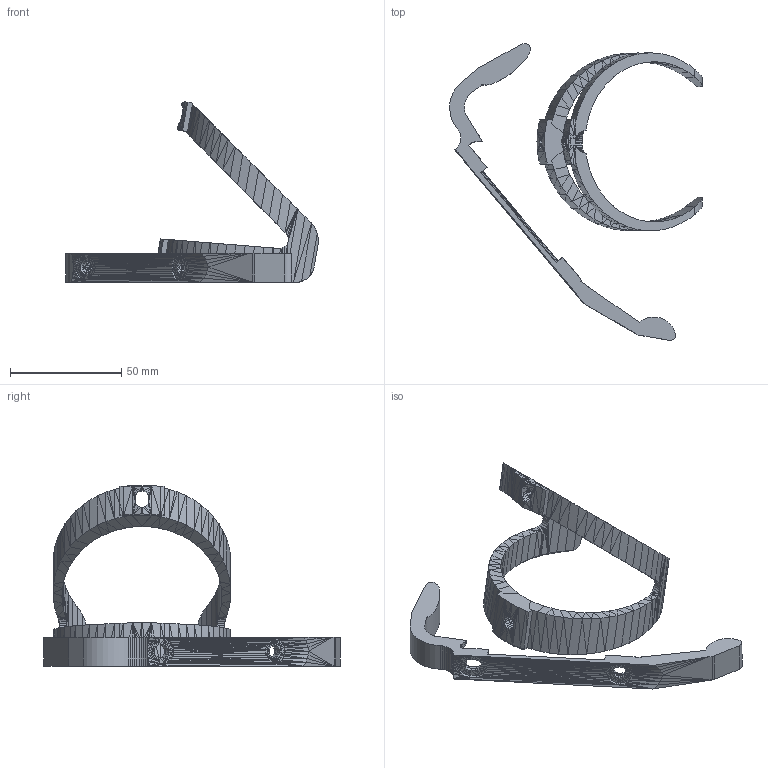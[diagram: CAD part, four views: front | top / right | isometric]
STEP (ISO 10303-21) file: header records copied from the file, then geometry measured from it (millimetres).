
FILE_DESCRIPTION(/* description */ ('STEP AP242 Edition 2','CAx-IF Rec.Pracs.---Representation and Presentation of Product Manufacturing Information (PMI)---4.0---2014-10-13','CAx-IF Rec.Pracs.---3D Tessellated Geometry---0.4---2014-09-14','2;1','CAx-IF Rec.Pracs.---User Defined Attributes---1.5---2016-08-15'),/* implementation_level */ '2;1');
FILE_NAME(/* name */ '698779cbe0e614ade837a9a0',/* time_stamp */ '2026-02-07T17:43:40Z',/* author */ (''),/* organization */ (''),/* preprocessor_version */ 'ST-DEVELOPER v20',/* originating_system */ 'ONSHAPE BY PTC INC, 1.210',/* authorisation */ ' ');
FILE_SCHEMA (('AP242_MANAGED_MODEL_BASED_3D_ENGINEERING_MIM_LF { 1 0 10303 442 3 1 4 }'));
Length unit declared in the file: metre
Products named in the file (2): Mount Bracket; Combined Reinforced Bottle Cage
Bounding box: 113.64 x 133.42 x 81.14 mm (x, y, z)
Volume: 38562.3 mm3; surface area: 22685.4 mm2
Topology: 2 solids, 2 shells, 1767 faces, 3470 edges, 1697 vertices
Faces by surface type: plane 1751, cylinder 13, bspline 3
Entity records: 42356 total; most frequent: CARTESIAN_POINT 7802, ORIENTED_EDGE 6940, DIRECTION 6827, EDGE_CURVE 3470, LINE 3233, VECTOR 3233, AXIS2_PLACEMENT_3D 1797, EDGE_LOOP 1767
